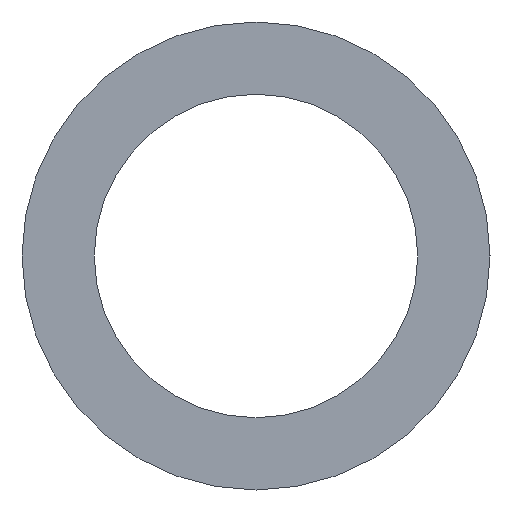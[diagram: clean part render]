
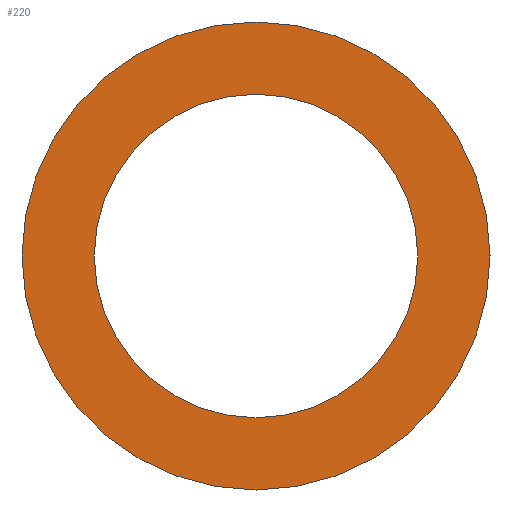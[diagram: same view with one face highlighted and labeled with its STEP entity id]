
A CAD part, left-side view. The second image highlights one B-rep face of the part: STEP entity #220.
In plain terms, the highlighted planar face has unit normal (-1, 0, 0).
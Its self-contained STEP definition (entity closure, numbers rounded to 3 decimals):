
#55 = CARTESIAN_POINT ( 'NONE',  ( -12.7, 0., -4.25 ) ) ;
#67 = ORIENTED_EDGE ( 'NONE', *, *, #255, .F. ) ;
#69 = AXIS2_PLACEMENT_3D ( 'NONE', #304, #517, #152 ) ;
#104 = AXIS2_PLACEMENT_3D ( 'NONE', #529, #359, #364 ) ;
#105 = VERTEX_POINT ( 'NONE', #607 ) ;
#136 = AXIS2_PLACEMENT_3D ( 'NONE', #138, #437, #393 ) ;
#138 = CARTESIAN_POINT ( 'NONE',  ( -12.7, 0., 0. ) ) ;
#147 = CIRCLE ( 'NONE', #169, 4.25 ) ;
#152 = DIRECTION ( 'NONE',  ( 0., 0., 1. ) ) ;
#169 = AXIS2_PLACEMENT_3D ( 'NONE', #292, #509, #656 ) ;
#199 = PLANE ( 'NONE',  #69 ) ;
#220 = ADVANCED_FACE ( 'NONE', ( #403, #515 ), #199, .T. ) ;
#255 = EDGE_CURVE ( 'NONE', #105, #497, #450, .T. ) ;
#291 = VERTEX_POINT ( 'NONE', #55 ) ;
#292 = CARTESIAN_POINT ( 'NONE',  ( -12.7, 0., 0. ) ) ;
#304 = CARTESIAN_POINT ( 'NONE',  ( -12.7, 6.15, 0. ) ) ;
#311 = VERTEX_POINT ( 'NONE', #378 ) ;
#335 = CARTESIAN_POINT ( 'NONE',  ( -12.7, 0., 0. ) ) ;
#341 = CIRCLE ( 'NONE', #136, 4.25 ) ;
#343 = ORIENTED_EDGE ( 'NONE', *, *, #488, .T. ) ;
#359 = DIRECTION ( 'NONE',  ( 1., 0., 0. ) ) ;
#364 = DIRECTION ( 'NONE',  ( 0., 0., -1. ) ) ;
#373 = CIRCLE ( 'NONE', #557, 6.15 ) ;
#376 = EDGE_LOOP ( 'NONE', ( #457, #67 ) ) ;
#378 = CARTESIAN_POINT ( 'NONE',  ( -12.7, 0., 4.25 ) ) ;
#393 = DIRECTION ( 'NONE',  ( 0., 1., 0. ) ) ;
#397 = DIRECTION ( 'NONE',  ( 0., 0., -1. ) ) ;
#403 = FACE_OUTER_BOUND ( 'NONE', #376, .T. ) ;
#437 = DIRECTION ( 'NONE',  ( 1., 0., 0. ) ) ;
#443 = CARTESIAN_POINT ( 'NONE',  ( -12.7, 0., -6.15 ) ) ;
#450 = CIRCLE ( 'NONE', #104, 6.15 ) ;
#457 = ORIENTED_EDGE ( 'NONE', *, *, #524, .F. ) ;
#488 = EDGE_CURVE ( 'NONE', #311, #291, #147, .T. ) ;
#497 = VERTEX_POINT ( 'NONE', #443 ) ;
#509 = DIRECTION ( 'NONE',  ( 1., 0., 0. ) ) ;
#515 = FACE_BOUND ( 'NONE', #590, .T. ) ;
#517 = DIRECTION ( 'NONE',  ( -1., 0., 0. ) ) ;
#518 = ORIENTED_EDGE ( 'NONE', *, *, #574, .T. ) ;
#524 = EDGE_CURVE ( 'NONE', #497, #105, #373, .T. ) ;
#529 = CARTESIAN_POINT ( 'NONE',  ( -12.7, 0., 0. ) ) ;
#551 = DIRECTION ( 'NONE',  ( 1., 0., 0. ) ) ;
#557 = AXIS2_PLACEMENT_3D ( 'NONE', #335, #551, #397 ) ;
#574 = EDGE_CURVE ( 'NONE', #291, #311, #341, .T. ) ;
#590 = EDGE_LOOP ( 'NONE', ( #518, #343 ) ) ;
#607 = CARTESIAN_POINT ( 'NONE',  ( -12.7, 0., 6.15 ) ) ;
#656 = DIRECTION ( 'NONE',  ( 0., 1., 0. ) ) ;
